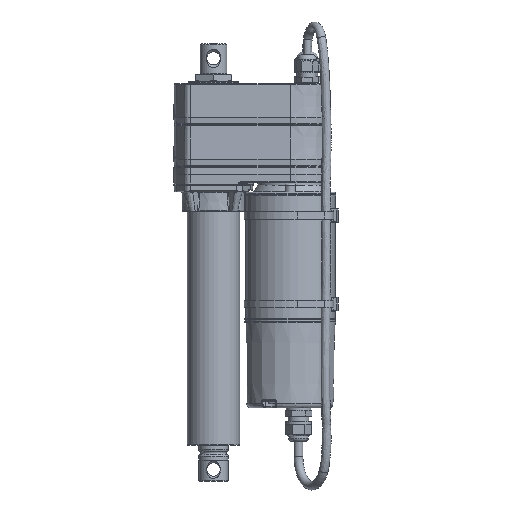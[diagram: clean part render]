
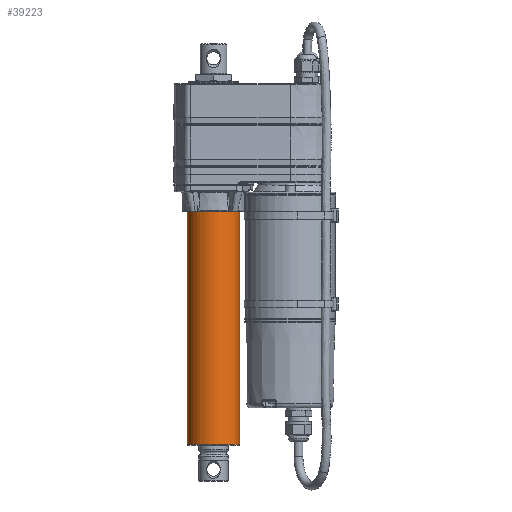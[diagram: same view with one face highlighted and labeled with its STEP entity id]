
A CAD part, left-side view. The second image highlights one B-rep face of the part: STEP entity #39223.
In plain terms, the highlighted cylindrical face has radius 25.4 mm (diameter 50.8 mm), a full revolution.
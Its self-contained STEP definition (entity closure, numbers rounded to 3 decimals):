
#4092 = DIRECTION ( 'NONE',  ( 0., 0., -1. ) ) ;
#6016 = DIRECTION ( 'NONE',  ( 1., 0., 0. ) ) ;
#7145 = AXIS2_PLACEMENT_3D ( 'NONE', #22847, #4092, #25967 ) ;
#8178 = AXIS2_PLACEMENT_3D ( 'NONE', #24726, #37311, #6016 ) ;
#8341 = CIRCLE ( 'NONE', #7145, 25.4 ) ;
#10596 = DIRECTION ( 'NONE',  ( 0., 0., 1. ) ) ;
#13320 = CARTESIAN_POINT ( 'NONE',  ( 25.4, 0., -83.664 ) ) ;
#13854 = VERTEX_POINT ( 'NONE', #13320 ) ;
#15249 = CYLINDRICAL_SURFACE ( 'NONE', #8178, 25.4 ) ;
#15808 = VERTEX_POINT ( 'NONE', #38189 ) ;
#20646 = EDGE_LOOP ( 'NONE', ( #28981 ) ) ;
#22847 = CARTESIAN_POINT ( 'NONE',  ( 0., 0., -83.664 ) ) ;
#23498 = EDGE_CURVE ( 'NONE', #15808, #15808, #33928, .T. ) ;
#24022 = AXIS2_PLACEMENT_3D ( 'NONE', #29283, #10596, #32437 ) ;
#24518 = EDGE_LOOP ( 'NONE', ( #26369 ) ) ;
#24540 = FACE_OUTER_BOUND ( 'NONE', #24518, .T. ) ;
#24726 = CARTESIAN_POINT ( 'NONE',  ( 0., 0., 0. ) ) ;
#25531 = FACE_OUTER_BOUND ( 'NONE', #20646, .T. ) ;
#25967 = DIRECTION ( 'NONE',  ( 1., 0., 0. ) ) ;
#26369 = ORIENTED_EDGE ( 'NONE', *, *, #26888, .T. ) ;
#26888 = EDGE_CURVE ( 'NONE', #13854, #13854, #8341, .T. ) ;
#28981 = ORIENTED_EDGE ( 'NONE', *, *, #23498, .T. ) ;
#29283 = CARTESIAN_POINT ( 'NONE',  ( 0., 0., -310.5 ) ) ;
#32437 = DIRECTION ( 'NONE',  ( 1., 0., 0. ) ) ;
#33928 = CIRCLE ( 'NONE', #24022, 25.4 ) ;
#37311 = DIRECTION ( 'NONE',  ( 0., 0., 1. ) ) ;
#38189 = CARTESIAN_POINT ( 'NONE',  ( 25.4, 0., -310.5 ) ) ;
#39223 = ADVANCED_FACE ( 'NONE', ( #24540, #25531 ), #15249, .T. ) ;
